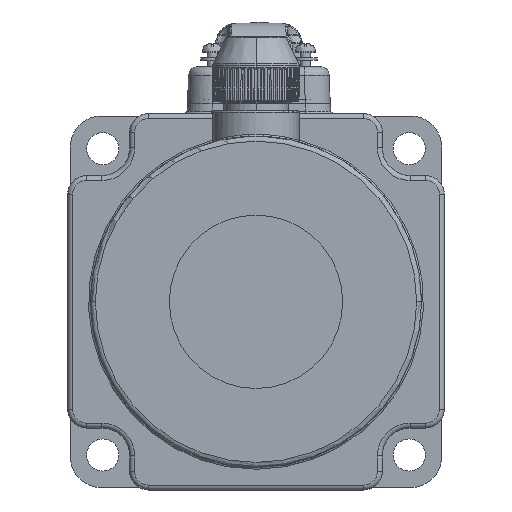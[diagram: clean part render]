
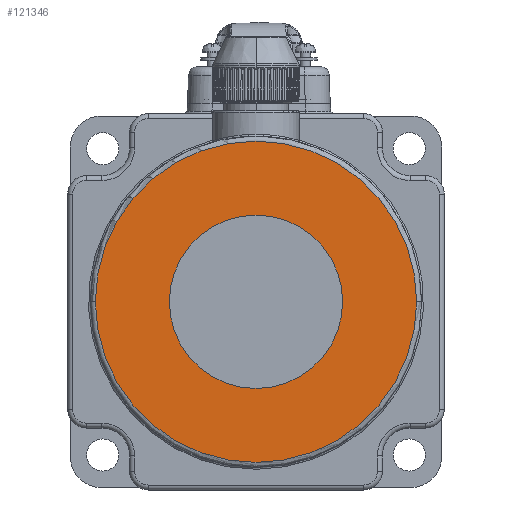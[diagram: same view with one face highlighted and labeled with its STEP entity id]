
A CAD part, left-side view. The second image highlights one B-rep face of the part: STEP entity #121346.
In plain terms, the highlighted planar face has unit normal (-1, 0, 0) as drawn and (0, 0, -1) by its records, which use the part's own axes.
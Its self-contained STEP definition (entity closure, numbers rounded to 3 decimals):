
#115971=CARTESIAN_POINT('',(0.,0.,-12.));
#115972=DIRECTION('',(0.,0.,1.));
#115973=DIRECTION('',(-1.,0.,0.));
#115974=AXIS2_PLACEMENT_3D('',#115971,#115972,#115973);
#115976=CARTESIAN_POINT('',(0.,0.,-12.));
#115977=DIRECTION('',(0.,0.,1.));
#115978=DIRECTION('',(1.,0.,0.));
#115979=AXIS2_PLACEMENT_3D('',#115976,#115977,#115978);
#115981=CARTESIAN_POINT('',(0.,0.,-12.));
#115982=DIRECTION('',(0.,0.,-1.));
#115983=DIRECTION('',(0.,1.,0.));
#115984=AXIS2_PLACEMENT_3D('',#115981,#115982,#115983);
#115986=CARTESIAN_POINT('',(0.,0.,-12.));
#115987=DIRECTION('',(0.,0.,-1.));
#115988=DIRECTION('',(0.,-1.,0.));
#115989=AXIS2_PLACEMENT_3D('',#115986,#115987,#115988);
#116970=CARTESIAN_POINT('',(-25.95,0.,-12.));
#116971=VERTEX_POINT('',#116970);
#116972=CARTESIAN_POINT('',(25.95,0.,-12.));
#116973=VERTEX_POINT('',#116972);
#116974=CARTESIAN_POINT('',(0.,14.,-12.));
#116975=CARTESIAN_POINT('',(0.,-14.,-12.));
#116976=VERTEX_POINT('',#116974);
#116977=VERTEX_POINT('',#116975);
#121331=CARTESIAN_POINT('',(0.,0.,-12.));
#121332=DIRECTION('',(0.,0.,-1.));
#121333=DIRECTION('',(-1.,0.,0.));
#121334=AXIS2_PLACEMENT_3D('',#121331,#121332,#121333);
#121335=PLANE('',#121334);
#121336=ORIENTED_EDGE('',*,*,#121322,.T.);
#121337=ORIENTED_EDGE('',*,*,#121308,.T.);
#121338=EDGE_LOOP('',(#121336,#121337));
#121339=FACE_OUTER_BOUND('',#121338,.F.);
#121341=ORIENTED_EDGE('',*,*,#121340,.T.);
#121343=ORIENTED_EDGE('',*,*,#121342,.T.);
#121344=EDGE_LOOP('',(#121341,#121343));
#121345=FACE_BOUND('',#121344,.F.);
#115975=CIRCLE('',#115974,25.95);
#115980=CIRCLE('',#115979,25.95);
#115985=CIRCLE('',#115984,14.);
#115990=CIRCLE('',#115989,14.);
#121308=EDGE_CURVE('',#116973,#116971,#115980,.T.);
#121322=EDGE_CURVE('',#116971,#116973,#115975,.T.);
#121340=EDGE_CURVE('',#116976,#116977,#115985,.T.);
#121342=EDGE_CURVE('',#116977,#116976,#115990,.T.);
#121346=ADVANCED_FACE('',(#121339,#121345),#121335,.T.);
